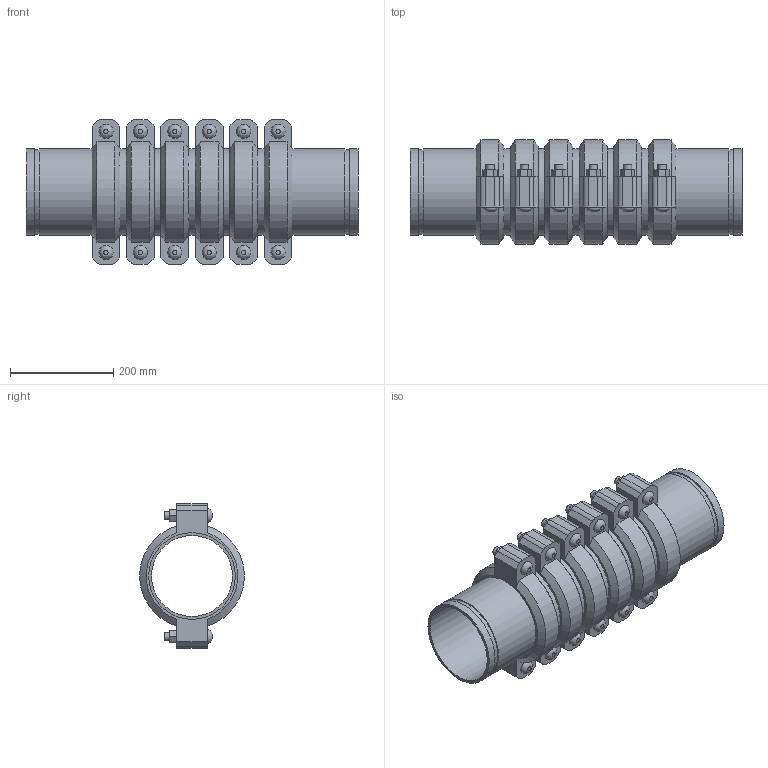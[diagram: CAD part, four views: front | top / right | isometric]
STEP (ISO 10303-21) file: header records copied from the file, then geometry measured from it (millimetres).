
FILE_DESCRIPTION(/* description */ ('VIC EXPANSION JOINT 6 COUPLINGS EXPANDED STYLE 155 (OGS)','CAx-IF Rec.Pracs.---Representation and Presentation of Product Manufacturing Information (PMI)---4.0---2014-10-13'),/* implementation_level */ '2;1');
FILE_NAME(/* name */ 'C:\Users\kkamble\AppData\Roaming\Autodesk\ApplicationPlugins\Victaulic.Temp\A6\Victaulic_IPS_Expansion Joint_Expanded_6 Couplings_Style 155 (OGS)_6 (150).stp',/* time_stamp */ '2021-06-27T00:05:01+02:00',/* author */ ('kkamble'),/* organization */ ('Victaulic'),/* preprocessor_version */ 'ST-DEVELOPER v17.2',/* originating_system */ 'Autodesk Inventor 2019',/* authorisation */ '');
FILE_SCHEMA (('AP242_MANAGED_MODEL_BASED_3D_ENGINEERING_MIM_LF { 1 0 10303 442 1 1 4 }'));
Length unit declared in the file: inch
Products named in the file (4): 155-06.0; Nipple-06.0; Nipple-06.0_1; 075-06.0
Assembly tree (13 placements, depth 2):
  155-06.0
    Nipple-06.0  x2
    Nipple-06.0_1  x5
    075-06.0  x6
Bounding box: 644.4 x 202.46 x 281.18 mm (x, y, z)
Volume: 6156007.3 mm3; surface area: 1387259.2 mm2
Topology: 13 solids, 25 shells, 426 faces, 1008 edges, 708 vertices
Faces by surface type: plane 258, cylinder 132, cone 24, bspline 12
Full cylindrical faces by diameter (mm): 15.875 x24, 17.424 x12, 157.15 x7, 161.925 x6, 163.957 x14, 168.275 x33
Entity records: 2817 total; most frequent: CARTESIAN_POINT 497, DIRECTION 469, ORIENTED_EDGE 386, EDGE_CURVE 193, AXIS2_PLACEMENT_3D 188, VERTEX_POINT 138, EDGE_LOOP 107, LINE 93
